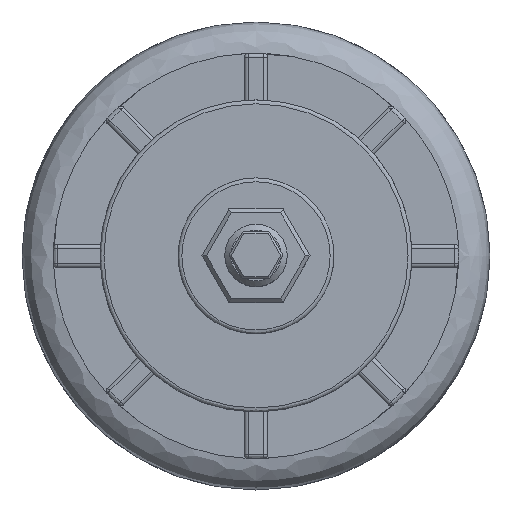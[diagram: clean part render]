
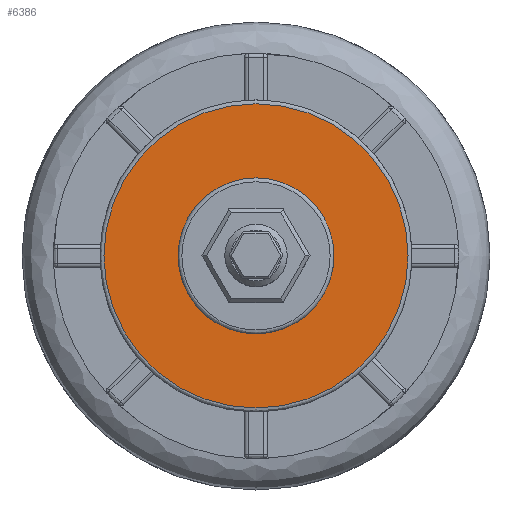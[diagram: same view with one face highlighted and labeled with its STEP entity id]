
A CAD part, top view. The second image highlights one B-rep face of the part: STEP entity #6386.
In plain terms, the highlighted planar face has unit normal (0, 0, 1).
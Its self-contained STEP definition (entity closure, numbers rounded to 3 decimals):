
#6361=CARTESIAN_POINT('',(1247.192,914.895,19.0));
#6362=DIRECTION('',(0.0,0.0,1.0));
#6363=DIRECTION('',(1.0,0.0,0.0));
#6364=AXIS2_PLACEMENT_3D('',#6361,#6362,#6363);
#6365=PLANE('',#6364);
#6366=CARTESIAN_POINT('',(1334.193,962.895,19.0));
#6367=VERTEX_POINT('',#6366);
#6368=CARTESIAN_POINT('',(1256.193,962.895,19.0));
#6369=VERTEX_POINT('',#6368);
#6370=CARTESIAN_POINT('',(1295.193,962.895,19.0));
#6371=DIRECTION('',(0.0,0.0,1.0));
#6372=DIRECTION('',(1.0,0.0,0.0));
#6373=AXIS2_PLACEMENT_3D('',#6370,#6371,#6372);
#6374=CIRCLE('',#6373,39.0);
#6375=EDGE_CURVE('',#6367,#6369,#6374,.T.);
#6376=ORIENTED_EDGE('',*,*,#6375,.T.);
#6377=CARTESIAN_POINT('',(1295.193,962.895,19.0));
#6378=DIRECTION('',(0.0,0.0,1.0));
#6379=DIRECTION('',(1.0,0.0,0.0));
#6380=AXIS2_PLACEMENT_3D('',#6377,#6378,#6379);
#6381=CIRCLE('',#6380,39.0);
#6382=EDGE_CURVE('',#6369,#6367,#6381,.T.);
#6383=ORIENTED_EDGE('',*,*,#6382,.T.);
#6384=EDGE_LOOP('',(#6376,#6383));
#6385=FACE_OUTER_BOUND('',#6384,.T.);
#6386=ADVANCED_FACE('',(#6385),#6365,.T.);
